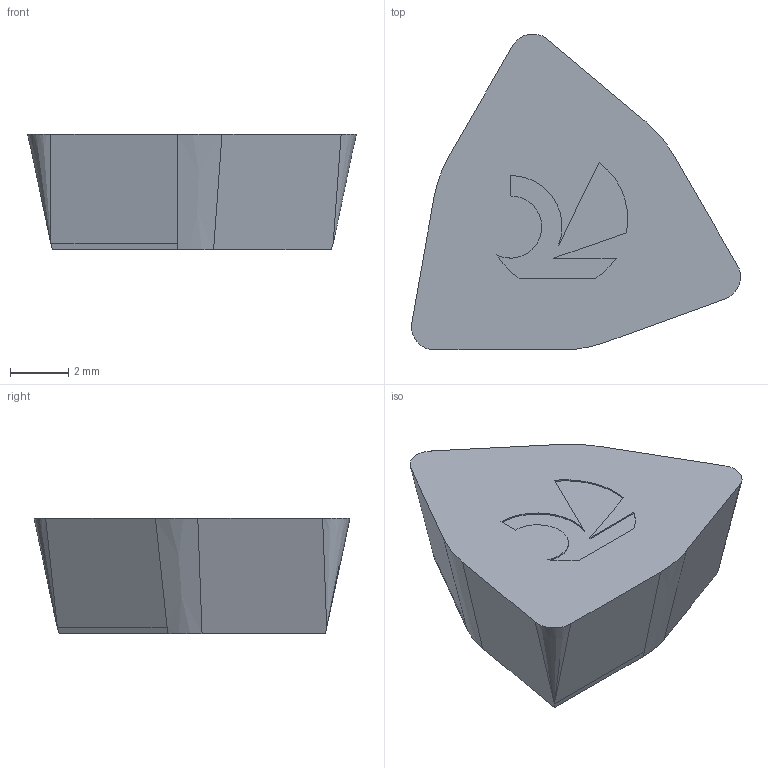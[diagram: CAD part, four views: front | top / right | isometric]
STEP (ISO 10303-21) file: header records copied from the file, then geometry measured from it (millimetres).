
FILE_DESCRIPTION(('no description'),'unknown implementation level');
FILE_NAME('solid5BX78dQkpys6WOfjVmEybXaMclE_1.STP',' ',('CIMSOURCE GmbH'),('CADClick - KiM GmbH - www.kimweb.de'),'unknown preprocess','ACIS','unknown authorization');
FILE_SCHEMA(('automotive_design'));
Length unit declared in the file: millimetre
Products named in the file (1): CUT
Bounding box: 11.29 x 10.84 x 3.97 mm (x, y, z)
Volume: 263.8 mm3; surface area: 266 mm2
Topology: 1 solids, 1 shells, 29 faces, 78 edges, 49 vertices
Faces by surface type: plane 17, cylinder 6, cone 6
Entity records: 1768 total; most frequent: DIRECTION 158, CARTESIAN_POINT 155, STYLED_ITEM 154, PRESENTATION_STYLE_ASSIGNMENT 154, COLOUR_RGB 154, ORIENTED_EDGE 150, EDGE_CURVE 75, CURVE_STYLE 75
